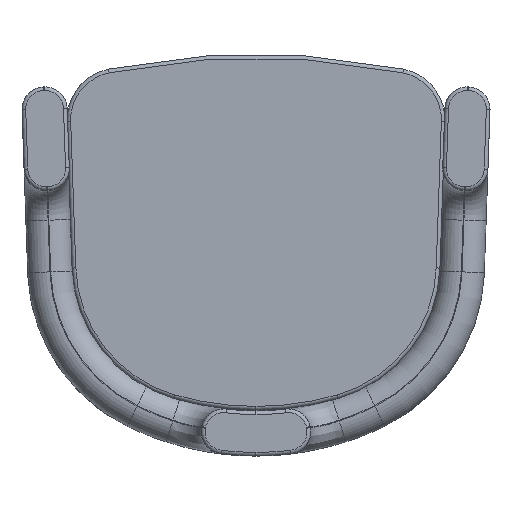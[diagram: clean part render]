
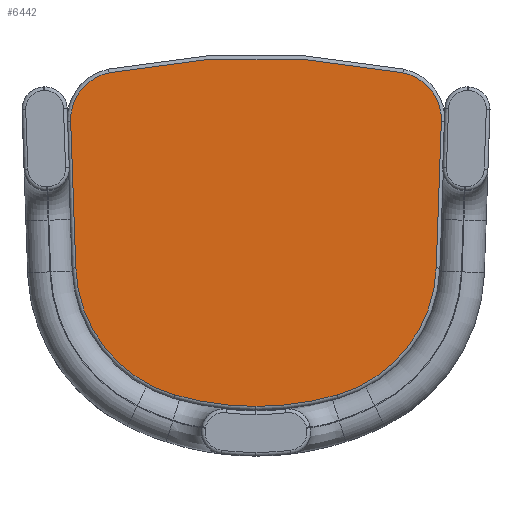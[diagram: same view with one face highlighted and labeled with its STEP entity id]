
A CAD part, front view. The second image highlights one B-rep face of the part: STEP entity #6442.
In plain terms, the highlighted planar face has unit normal (0, -1, 0).
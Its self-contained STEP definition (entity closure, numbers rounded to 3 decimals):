
#11 = AXIS2_PLACEMENT_3D ( 'NONE', #2766, #562, #1083 ) ;
#32 = ORIENTED_EDGE ( 'NONE', *, *, #6776, .T. ) ;
#254 = EDGE_CURVE ( 'NONE', #1019, #1835, #7197, .T. ) ;
#377 = DIRECTION ( 'NONE',  ( 0., -1., 0. ) ) ;
#511 = AXIS2_PLACEMENT_3D ( 'NONE', #1834, #4492, #3320 ) ;
#528 = CARTESIAN_POINT ( 'NONE',  ( -243.111, 360., -48.224 ) ) ;
#559 = VECTOR ( 'NONE', #738, 1000. ) ;
#562 = DIRECTION ( 'NONE',  ( 0., -1., 0. ) ) ;
#605 = ORIENTED_EDGE ( 'NONE', *, *, #2389, .T. ) ;
#687 = EDGE_CURVE ( 'NONE', #7481, #3908, #4458, .T. ) ;
#738 = DIRECTION ( 'NONE',  ( 0.035, 0., -0.999 ) ) ;
#823 = CARTESIAN_POINT ( 'NONE',  ( -197.976, 360., 215.105 ) ) ;
#882 = CIRCLE ( 'NONE', #6093, 995. ) ;
#1019 = VERTEX_POINT ( 'NONE', #4808 ) ;
#1037 = VECTOR ( 'NONE', #6232, 1000. ) ;
#1083 = DIRECTION ( 'NONE',  ( 0., 0., -1. ) ) ;
#1097 = DIRECTION ( 'NONE',  ( 0., 0., -1. ) ) ;
#1297 = ORIENTED_EDGE ( 'NONE', *, *, #2804, .T. ) ;
#1387 = DIRECTION ( 'NONE',  ( 0., 0., -1. ) ) ;
#1609 = CARTESIAN_POINT ( 'NONE',  ( 243.111, 360., -48.224 ) ) ;
#1616 = DIRECTION ( 'NONE',  ( 0., 0., -1. ) ) ;
#1624 = VERTEX_POINT ( 'NONE', #4219 ) ;
#1834 = CARTESIAN_POINT ( 'NONE',  ( 58.224, 360., -41.767 ) ) ;
#1835 = VERTEX_POINT ( 'NONE', #7409 ) ;
#2101 = ORIENTED_EDGE ( 'NONE', *, *, #3004, .T. ) ;
#2209 = CIRCLE ( 'NONE', #3898, 185. ) ;
#2309 = ORIENTED_EDGE ( 'NONE', *, *, #4636, .T. ) ;
#2389 = EDGE_CURVE ( 'NONE', #4617, #1624, #5066, .T. ) ;
#2458 = CARTESIAN_POINT ( 'NONE',  ( -242.969, 360., -52.285 ) ) ;
#2461 = CARTESIAN_POINT ( 'NONE',  ( -250.003, 360., 149.137 ) ) ;
#2521 = EDGE_CURVE ( 'NONE', #3908, #5581, #5301, .T. ) ;
#2745 = CARTESIAN_POINT ( 'NONE',  ( 109.516, 360., -219.514 ) ) ;
#2766 = CARTESIAN_POINT ( 'NONE',  ( 0., 360., 160. ) ) ;
#2804 = EDGE_CURVE ( 'NONE', #1835, #4709, #3344, .T. ) ;
#2805 = ORIENTED_EDGE ( 'NONE', *, *, #687, .T. ) ;
#2817 = DIRECTION ( 'NONE',  ( 0., -1., 0. ) ) ;
#2863 = DIRECTION ( 'NONE',  ( 0., -1., 0. ) ) ;
#3004 = EDGE_CURVE ( 'NONE', #4709, #4617, #5105, .T. ) ;
#3303 = AXIS2_PLACEMENT_3D ( 'NONE', #3792, #7293, #3753 ) ;
#3320 = DIRECTION ( 'NONE',  ( 0., 0., -1. ) ) ;
#3344 = CIRCLE ( 'NONE', #11, 395. ) ;
#3505 = CARTESIAN_POINT ( 'NONE',  ( -185.043, 360., 151.405 ) ) ;
#3753 = DIRECTION ( 'NONE',  ( 0., 0., -1. ) ) ;
#3792 = CARTESIAN_POINT ( 'NONE',  ( 185.043, 360., 151.405 ) ) ;
#3848 = AXIS2_PLACEMENT_3D ( 'NONE', #3505, #2863, #1616 ) ;
#3898 = AXIS2_PLACEMENT_3D ( 'NONE', #6700, #5593, #6734 ) ;
#3908 = VERTEX_POINT ( 'NONE', #2461 ) ;
#3956 = ORIENTED_EDGE ( 'NONE', *, *, #254, .T. ) ;
#4148 = CARTESIAN_POINT ( 'NONE',  ( 243.111, 360., -48.224 ) ) ;
#4160 = DIRECTION ( 'NONE',  ( 0., -1., 0. ) ) ;
#4219 = CARTESIAN_POINT ( 'NONE',  ( 250.003, 360., 149.137 ) ) ;
#4347 = EDGE_LOOP ( 'NONE', ( #32, #3956, #1297, #2101, #605, #2309, #4895, #2805, #5582 ) ) ;
#4458 = CIRCLE ( 'NONE', #3848, 65. ) ;
#4492 = DIRECTION ( 'NONE',  ( 0., -1., 0. ) ) ;
#4516 = AXIS2_PLACEMENT_3D ( 'NONE', #5314, #4160, #1387 ) ;
#4555 = CARTESIAN_POINT ( 'NONE',  ( 0., 360., -760. ) ) ;
#4617 = VERTEX_POINT ( 'NONE', #4148 ) ;
#4636 = EDGE_CURVE ( 'NONE', #1624, #4835, #6935, .T. ) ;
#4709 = VERTEX_POINT ( 'NONE', #2745 ) ;
#4721 = PLANE ( 'NONE',  #511 ) ;
#4808 = CARTESIAN_POINT ( 'NONE',  ( -109.516, 360., -219.514 ) ) ;
#4835 = VERTEX_POINT ( 'NONE', #6950 ) ;
#4849 = EDGE_CURVE ( 'NONE', #4835, #7481, #882, .T. ) ;
#4895 = ORIENTED_EDGE ( 'NONE', *, *, #4849, .T. ) ;
#5066 = LINE ( 'NONE', #1609, #1037 ) ;
#5105 = CIRCLE ( 'NONE', #5473, 185. ) ;
#5301 = LINE ( 'NONE', #2458, #559 ) ;
#5314 = CARTESIAN_POINT ( 'NONE',  ( 0., 360., 160. ) ) ;
#5473 = AXIS2_PLACEMENT_3D ( 'NONE', #6749, #377, #6173 ) ;
#5581 = VERTEX_POINT ( 'NONE', #528 ) ;
#5582 = ORIENTED_EDGE ( 'NONE', *, *, #2521, .T. ) ;
#5593 = DIRECTION ( 'NONE',  ( 0., -1., 0. ) ) ;
#6093 = AXIS2_PLACEMENT_3D ( 'NONE', #4555, #2817, #1097 ) ;
#6173 = DIRECTION ( 'NONE',  ( 0., 0., -1. ) ) ;
#6232 = DIRECTION ( 'NONE',  ( 0.035, 0., 0.999 ) ) ;
#6442 = ADVANCED_FACE ( 'NONE', ( #6465 ), #4721, .T. ) ;
#6465 = FACE_OUTER_BOUND ( 'NONE', #4347, .T. ) ;
#6700 = CARTESIAN_POINT ( 'NONE',  ( -58.224, 360., -41.767 ) ) ;
#6734 = DIRECTION ( 'NONE',  ( 0., 0., -1. ) ) ;
#6749 = CARTESIAN_POINT ( 'NONE',  ( 58.224, 360., -41.767 ) ) ;
#6776 = EDGE_CURVE ( 'NONE', #5581, #1019, #2209, .T. ) ;
#6935 = CIRCLE ( 'NONE', #3303, 65. ) ;
#6950 = CARTESIAN_POINT ( 'NONE',  ( 197.976, 360., 215.105 ) ) ;
#7197 = CIRCLE ( 'NONE', #4516, 395. ) ;
#7293 = DIRECTION ( 'NONE',  ( 0., -1., 0. ) ) ;
#7409 = CARTESIAN_POINT ( 'NONE',  ( 0., 360., -235. ) ) ;
#7481 = VERTEX_POINT ( 'NONE', #823 ) ;
